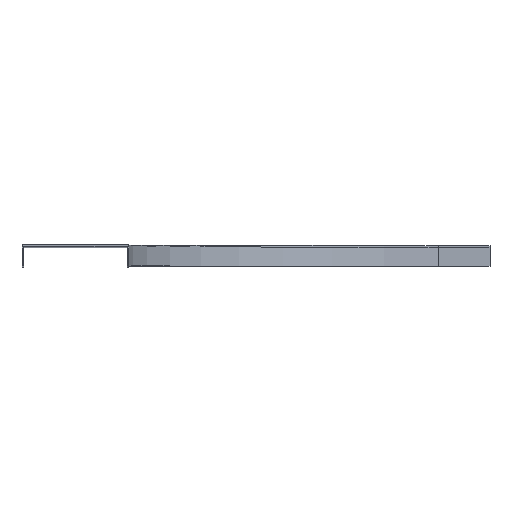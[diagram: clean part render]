
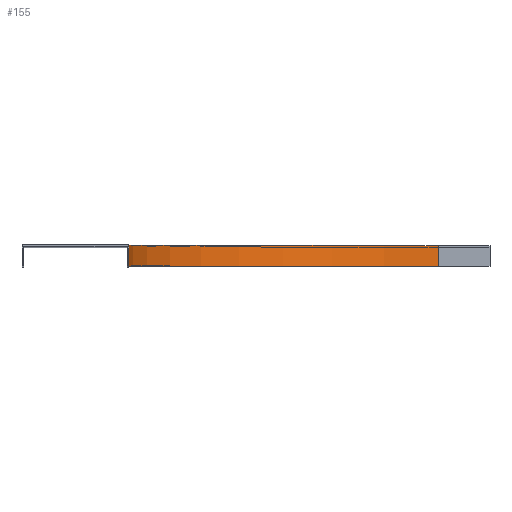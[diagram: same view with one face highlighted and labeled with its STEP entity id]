
A CAD part, top view. The second image highlights one B-rep face of the part: STEP entity #155.
In plain terms, the highlighted cylindrical face has radius 298.5 mm (diameter 597 mm), a partial arc.
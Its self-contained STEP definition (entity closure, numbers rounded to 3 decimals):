
#22 = VECTOR ( 'NONE', #497, 1000. ) ;
#60 = EDGE_CURVE ( 'NONE', #1119, #501, #151, .T. ) ;
#117 = DIRECTION ( 'NONE',  ( 0., 0., -1. ) ) ;
#151 = LINE ( 'NONE', #607, #1112 ) ;
#155 = ADVANCED_FACE ( 'NONE', ( #976 ), #774, .F. ) ;
#164 = AXIS2_PLACEMENT_3D ( 'NONE', #404, #936, #1100 ) ;
#182 = CARTESIAN_POINT ( 'NONE',  ( -298.5, -20., 0. ) ) ;
#190 = CARTESIAN_POINT ( 'NONE',  ( 0., -20., -298.5 ) ) ;
#191 = VERTEX_POINT ( 'NONE', #182 ) ;
#251 = ORIENTED_EDGE ( 'NONE', *, *, #824, .F. ) ;
#256 = EDGE_LOOP ( 'NONE', ( #251, #1040, #450, #451 ) ) ;
#404 = CARTESIAN_POINT ( 'NONE',  ( 0., 0., 0. ) ) ;
#433 = DIRECTION ( 'NONE',  ( 0., 1., 0. ) ) ;
#446 = VERTEX_POINT ( 'NONE', #1101 ) ;
#450 = ORIENTED_EDGE ( 'NONE', *, *, #741, .T. ) ;
#451 = ORIENTED_EDGE ( 'NONE', *, *, #60, .T. ) ;
#497 = DIRECTION ( 'NONE',  ( 0., 1., 0. ) ) ;
#501 = VERTEX_POINT ( 'NONE', #853 ) ;
#607 = CARTESIAN_POINT ( 'NONE',  ( 0., -20., -298.5 ) ) ;
#617 = DIRECTION ( 'NONE',  ( 0., 0., 1. ) ) ;
#639 = CIRCLE ( 'NONE', #869, 298.5 ) ;
#717 = DIRECTION ( 'NONE',  ( 0., 1., 0. ) ) ;
#741 = EDGE_CURVE ( 'NONE', #191, #1119, #639, .T. ) ;
#758 = CARTESIAN_POINT ( 'NONE',  ( -298.5, -20., 0. ) ) ;
#774 = CYLINDRICAL_SURFACE ( 'NONE', #925, 298.5 ) ;
#803 = EDGE_CURVE ( 'NONE', #191, #446, #926, .T. ) ;
#819 = CARTESIAN_POINT ( 'NONE',  ( 0., -20., 0. ) ) ;
#824 = EDGE_CURVE ( 'NONE', #446, #501, #905, .T. ) ;
#853 = CARTESIAN_POINT ( 'NONE',  ( 0., 0., -298.5 ) ) ;
#869 = AXIS2_PLACEMENT_3D ( 'NONE', #819, #908, #117 ) ;
#905 = CIRCLE ( 'NONE', #164, 298.5 ) ;
#908 = DIRECTION ( 'NONE',  ( 0., -1., 0. ) ) ;
#925 = AXIS2_PLACEMENT_3D ( 'NONE', #1038, #717, #617 ) ;
#926 = LINE ( 'NONE', #758, #22 ) ;
#936 = DIRECTION ( 'NONE',  ( 0., -1., 0. ) ) ;
#976 = FACE_OUTER_BOUND ( 'NONE', #256, .T. ) ;
#1038 = CARTESIAN_POINT ( 'NONE',  ( 0., -20., 0. ) ) ;
#1040 = ORIENTED_EDGE ( 'NONE', *, *, #803, .F. ) ;
#1100 = DIRECTION ( 'NONE',  ( 0., 0., -1. ) ) ;
#1101 = CARTESIAN_POINT ( 'NONE',  ( -298.5, 0., 0. ) ) ;
#1112 = VECTOR ( 'NONE', #433, 1000. ) ;
#1119 = VERTEX_POINT ( 'NONE', #190 ) ;
